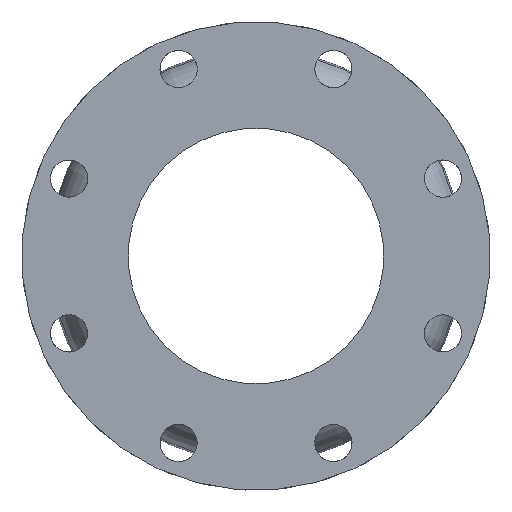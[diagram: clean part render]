
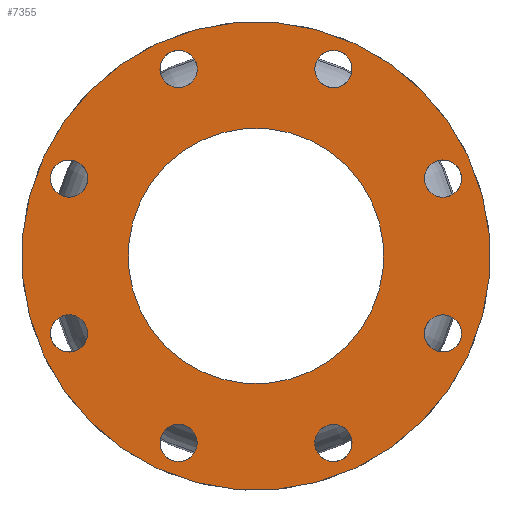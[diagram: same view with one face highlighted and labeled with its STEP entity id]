
A CAD part, left-side view. The second image highlights one B-rep face of the part: STEP entity #7355.
In plain terms, the highlighted planar face has unit normal (-1, 0, 0).
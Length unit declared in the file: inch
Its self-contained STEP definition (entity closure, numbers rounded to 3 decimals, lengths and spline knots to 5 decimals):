
#6872=CARTESIAN_POINT('',(-5.,2.12711,-4.07907));
#6873=VERTEX_POINT('',#6872);
#6874=CARTESIAN_POINT('',(-5.,1.81775,-4.38843));
#6875=DIRECTION('',(1.0,0.0,0.0));
#6876=DIRECTION('',(0.0,-0.707,-0.707));
#6877=AXIS2_PLACEMENT_3D('',#6874,#6875,#6876);
#6878=CIRCLE('',#6877,0.4375);
#6879=EDGE_CURVE('',#6873,#6873,#6878,.T.);
#6900=CARTESIAN_POINT('',(-5.,-1.38025,-4.38843));
#6901=VERTEX_POINT('',#6900);
#6902=CARTESIAN_POINT('',(-5.,-1.81775,-4.38843));
#6903=DIRECTION('',(1.0,0.0,0.0));
#6904=DIRECTION('',(0.0,-1.0,0.0));
#6905=AXIS2_PLACEMENT_3D('',#6902,#6903,#6904);
#6906=CIRCLE('',#6905,0.4375);
#6907=EDGE_CURVE('',#6901,#6901,#6906,.T.);
#6928=CARTESIAN_POINT('',(-5.,-4.07907,-2.12711));
#6929=VERTEX_POINT('',#6928);
#6930=CARTESIAN_POINT('',(-5.,-4.38843,-1.81775));
#6931=DIRECTION('',(1.0,0.0,0.0));
#6932=DIRECTION('',(0.0,-0.707,0.707));
#6933=AXIS2_PLACEMENT_3D('',#6930,#6931,#6932);
#6934=CIRCLE('',#6933,0.4375);
#6935=EDGE_CURVE('',#6929,#6929,#6934,.T.);
#6956=CARTESIAN_POINT('',(-5.,-4.38843,1.38025));
#6957=VERTEX_POINT('',#6956);
#6958=CARTESIAN_POINT('',(-5.,-4.38843,1.81775));
#6959=DIRECTION('',(1.0,0.0,0.0));
#6960=DIRECTION('',(0.0,0.0,1.0));
#6961=AXIS2_PLACEMENT_3D('',#6958,#6959,#6960);
#6962=CIRCLE('',#6961,0.4375);
#6963=EDGE_CURVE('',#6957,#6957,#6962,.T.);
#6984=CARTESIAN_POINT('',(-5.,-2.12711,4.07907));
#6985=VERTEX_POINT('',#6984);
#6986=CARTESIAN_POINT('',(-5.,-1.81775,4.38843));
#6987=DIRECTION('',(1.0,0.0,0.0));
#6988=DIRECTION('',(0.0,0.707,0.707));
#6989=AXIS2_PLACEMENT_3D('',#6986,#6987,#6988);
#6990=CIRCLE('',#6989,0.4375);
#6991=EDGE_CURVE('',#6985,#6985,#6990,.T.);
#7012=CARTESIAN_POINT('',(-5.,1.38025,4.38843));
#7013=VERTEX_POINT('',#7012);
#7014=CARTESIAN_POINT('',(-5.,1.81775,4.38843));
#7015=DIRECTION('',(1.0,0.0,0.0));
#7016=DIRECTION('',(0.0,1.0,0.0));
#7017=AXIS2_PLACEMENT_3D('',#7014,#7015,#7016);
#7018=CIRCLE('',#7017,0.4375);
#7019=EDGE_CURVE('',#7013,#7013,#7018,.T.);
#7040=CARTESIAN_POINT('',(-5.,4.07907,2.12711));
#7041=VERTEX_POINT('',#7040);
#7042=CARTESIAN_POINT('',(-5.,4.38843,1.81775));
#7043=DIRECTION('',(1.0,0.0,0.0));
#7044=DIRECTION('',(0.0,0.707,-0.707));
#7045=AXIS2_PLACEMENT_3D('',#7042,#7043,#7044);
#7046=CIRCLE('',#7045,0.4375);
#7047=EDGE_CURVE('',#7041,#7041,#7046,.T.);
#7068=CARTESIAN_POINT('',(-5.,4.38843,-1.38025));
#7069=VERTEX_POINT('',#7068);
#7070=CARTESIAN_POINT('',(-5.,4.38843,-1.81775));
#7071=DIRECTION('',(1.0,0.0,0.0));
#7072=DIRECTION('',(0.0,0.0,-1.0));
#7073=AXIS2_PLACEMENT_3D('',#7070,#7071,#7072);
#7074=CIRCLE('',#7073,0.4375);
#7075=EDGE_CURVE('',#7069,#7069,#7074,.T.);
#7304=CARTESIAN_POINT('',(-5.,5.4375,0.0));
#7305=DIRECTION('',(-1.0,0.0,0.0));
#7306=DIRECTION('',(0.0,0.0,1.0));
#7307=AXIS2_PLACEMENT_3D('',#7304,#7305,#7306);
#7308=PLANE('',#7307);
#7309=CARTESIAN_POINT('',(-5.,5.5,0.0));
#7310=VERTEX_POINT('',#7309);
#7311=CARTESIAN_POINT('',(-5.,0.0,0.0));
#7312=DIRECTION('',(1.0,0.0,0.0));
#7313=DIRECTION('',(0.0,1.0,0.0));
#7314=AXIS2_PLACEMENT_3D('',#7311,#7312,#7313);
#7315=CIRCLE('',#7314,5.5);
#7316=EDGE_CURVE('',#7310,#7310,#7315,.T.);
#7317=ORIENTED_EDGE('',*,*,#7316,.F.);
#7318=EDGE_LOOP('',(#7317));
#7319=FACE_OUTER_BOUND('',#7318,.T.);
#7320=ORIENTED_EDGE('',*,*,#6879,.T.);
#7321=EDGE_LOOP('',(#7320));
#7322=FACE_BOUND('',#7321,.T.);
#7323=ORIENTED_EDGE('',*,*,#6907,.T.);
#7324=EDGE_LOOP('',(#7323));
#7325=FACE_BOUND('',#7324,.T.);
#7326=ORIENTED_EDGE('',*,*,#6935,.T.);
#7327=EDGE_LOOP('',(#7326));
#7328=FACE_BOUND('',#7327,.T.);
#7329=ORIENTED_EDGE('',*,*,#6963,.T.);
#7330=EDGE_LOOP('',(#7329));
#7331=FACE_BOUND('',#7330,.T.);
#7332=ORIENTED_EDGE('',*,*,#6991,.T.);
#7333=EDGE_LOOP('',(#7332));
#7334=FACE_BOUND('',#7333,.T.);
#7335=ORIENTED_EDGE('',*,*,#7019,.T.);
#7336=EDGE_LOOP('',(#7335));
#7337=FACE_BOUND('',#7336,.T.);
#7338=ORIENTED_EDGE('',*,*,#7047,.T.);
#7339=EDGE_LOOP('',(#7338));
#7340=FACE_BOUND('',#7339,.T.);
#7341=ORIENTED_EDGE('',*,*,#7075,.T.);
#7342=EDGE_LOOP('',(#7341));
#7343=FACE_BOUND('',#7342,.T.);
#7344=CARTESIAN_POINT('',(-5.0,3.,0.0));
#7345=VERTEX_POINT('',#7344);
#7346=CARTESIAN_POINT('',(-5.0,0.0,0.0));
#7347=DIRECTION('',(1.0,0.0,0.0));
#7348=DIRECTION('',(0.0,1.0,0.0));
#7349=AXIS2_PLACEMENT_3D('',#7346,#7347,#7348);
#7350=CIRCLE('',#7349,3.);
#7351=EDGE_CURVE('',#7345,#7345,#7350,.T.);
#7352=ORIENTED_EDGE('',*,*,#7351,.T.);
#7353=EDGE_LOOP('',(#7352));
#7354=FACE_BOUND('',#7353,.T.);
#7355=ADVANCED_FACE('',(#7319,#7322,#7325,#7328,#7331,#7334,#7337,#7340,#7343,#7354),#7308,.T.);
